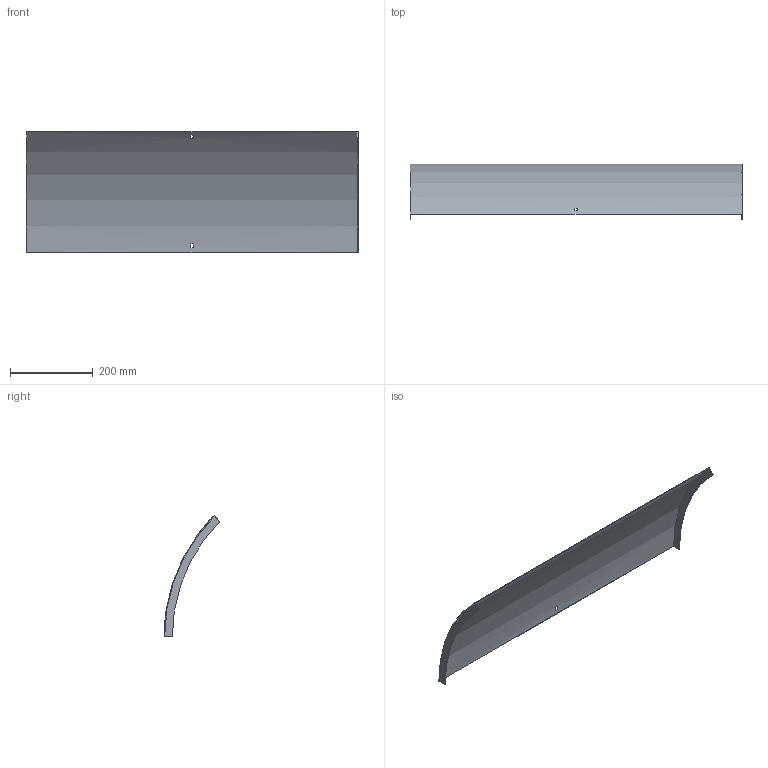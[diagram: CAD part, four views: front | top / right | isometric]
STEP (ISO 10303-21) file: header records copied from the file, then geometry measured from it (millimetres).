
FILE_DESCRIPTION (( 'STEP AP214' ), '1' );
FILE_NAME ('B2_34N3J800.step', '2025-02-21T10:37:18', ( '' ), ( '' ), 'SwSTEP 2.0', 'SolidWorks 2023', '' );
FILE_SCHEMA (( 'AUTOMOTIVE_DESIGN' ));
Length unit declared in the file: millimetre
Products named in the file (1): B2_34N3J800
Bounding box: 803 x 135.4 x 292.74 mm (x, y, z)
Volume: 408341.4 mm3; surface area: 547998.3 mm2
Topology: 1 solids, 1 shells, 18 faces, 48 edges, 32 vertices
Faces by surface type: plane 14, cylinder 4
Entity records: 599 total; most frequent: DIRECTION 102, CARTESIAN_POINT 99, ORIENTED_EDGE 96, EDGE_CURVE 48, AXIS2_PLACEMENT_3D 35, VECTOR 32, LINE 32, VERTEX_POINT 32
